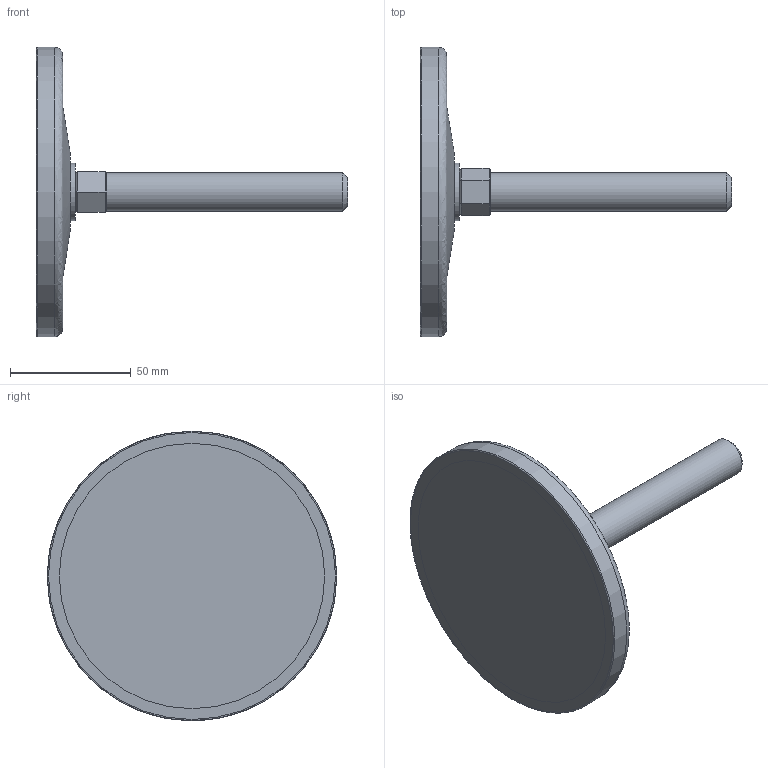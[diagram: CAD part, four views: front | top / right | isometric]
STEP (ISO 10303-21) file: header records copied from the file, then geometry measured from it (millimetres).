
FILE_DESCRIPTION(('STEP AP203'),'2;1');
FILE_NAME('15222.stp','2014-06-20T08:45:29',(''),(''),'2008.1.107','THINKDESIGN','');
FILE_SCHEMA(('CONFIG_CONTROL_DESIGN'));
Length unit declared in the file: millimetre
Bounding box: 129 x 120 x 120 mm (x, y, z)
Volume: 149710 mm3; surface area: 55090.3 mm2
Topology: 5 solids, 5 shells, 48 faces, 114 edges, 80 vertices
Faces by surface type: bspline 21, plane 19, cylinder 8
Full cylindrical faces by diameter (mm): 12.5 x2, 14.7 x1, 16 x1, 24 x1, 110 x2, 120 x1
Entity records: 2169 total; most frequent: CARTESIAN_POINT 863, ORIENTED_EDGE 226, DIRECTION 225, EDGE_CURVE 113, AXIS2_PLACEMENT_3D 84, VERTEX_POINT 78, CIRCLE 57, EDGE_LOOP 57
